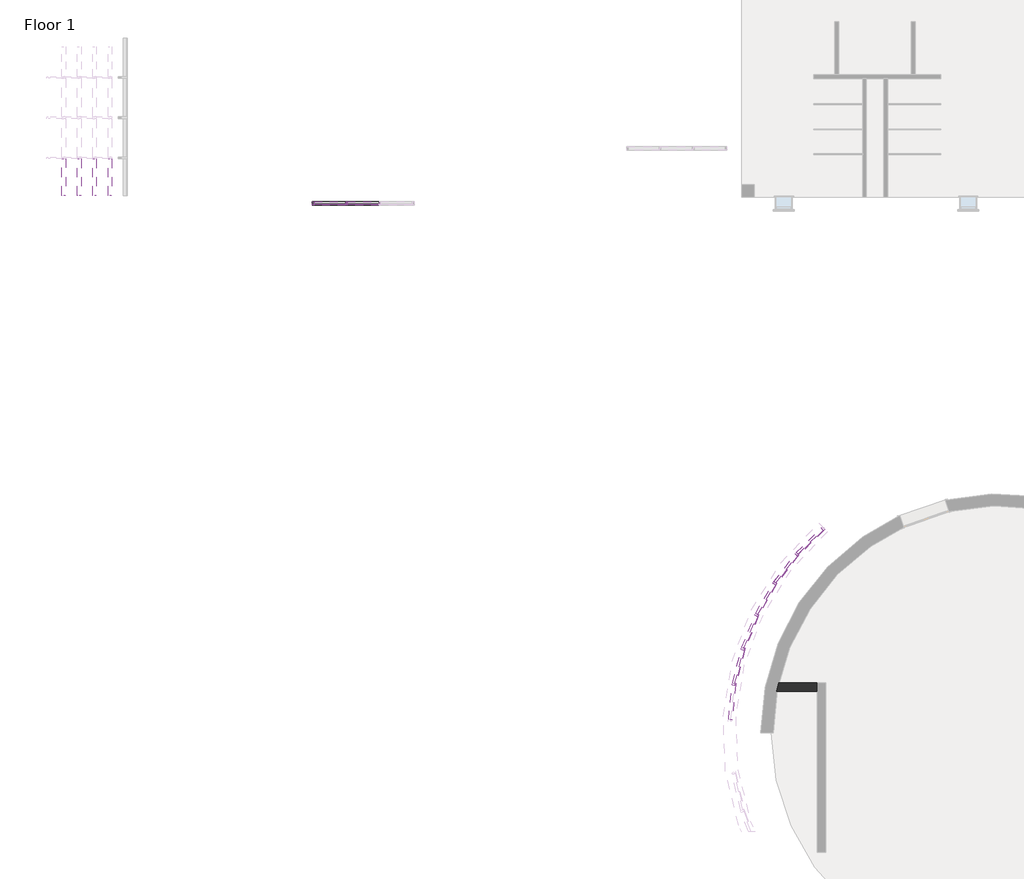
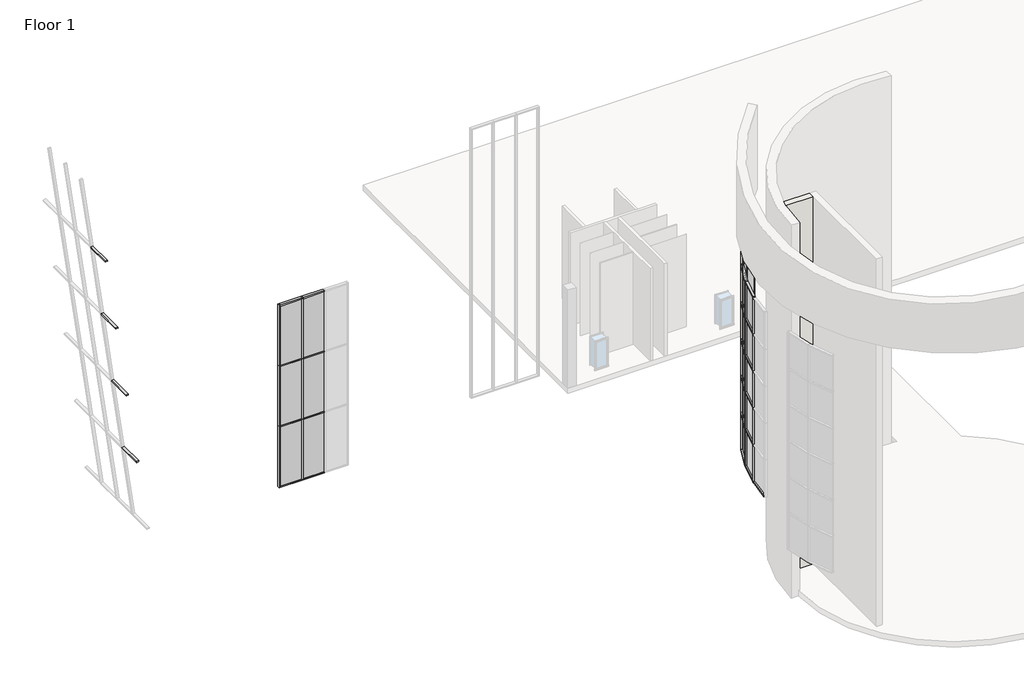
# One storey, part 2 of 11: 79 members, 28 plates, 1 wall.
"""IFC4 building model written with IfcOpenShell, lengths in millimetres."""

from ifc_helpers import new_model, si_unit, point, frame_2d, origin, origin_with_axes, place, context, project, spatial, polyline, circle_curve, trimmed, segment, composite_curve, outline, extrude, transform, mapped, element, save
from components import member_2ae322fc, member_fbb04c12, member_60f38ea1, member_92e61aeb, member_9c235780, member_a50b3385, member_6457a162, member_a397286f, member_08becc7e, member_c609194f, member_b037884b, member_01a4c065, member_349911e8, member_7b18d258, member_74dafc5e, member_9434a11c, system_panel_glazed_5cc509e3, system_panel_glazed_63f175b4, system_panel_glazed_b92d501e

model = new_model("IFC4")

# Units and contexts
model_context = context("Model", 3, world=origin())
ifc_project = project(units=[si_unit("LENGTHUNIT", "METRE", prefix="MILLI")], contexts=[model_context])

# Site, building, storey
site = spatial("IfcSite", under=ifc_project)
building = spatial("IfcBuilding", under=site)
storey = spatial("IfcBuildingStorey", under=building, Name="Floor 1", Elevation=0.0)

# Members
placement = place(None, origin())
member_shape = member_2ae322fc(model_context)
element("IfcMember", 1, ObjectType="Rectangular Mullion1 : 2.5\" x 5\" rectangular", at=placement, inside=storey, context=model_context, shape_type="MappedRepresentation", body=[
    mapped(member_shape, transform((-58.879377, 26659.808796, 5486.4), x_axis=(0.0, 0.0, -1.0), y_axis=(-0.7036879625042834, 0.7105091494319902, 0.0), z_axis=(0.7105091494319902, 0.7036879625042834, 0.0))),
])
member_2_shape = member_fbb04c12(model_context)
element("IfcMember", 2, ObjectType="Rectangular Mullion1 : 2.5\" x 5\" rectangular", at=placement, inside=storey, context=model_context, shape_type="MappedRepresentation", body=[
    mapped(member_2_shape, transform((-946.4907238, 25780.7188917, 15849.6), x_axis=(0.0, 0.0, 1.0), y_axis=(-0.7036879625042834, 0.7105091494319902, 0.0), z_axis=(-0.7105091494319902, -0.7036879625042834, 0.0))),
])
member_3_shape = member_60f38ea1(model_context)
element("IfcMember", 3, ObjectType="Rectangular Mullion1 : 2.5\" x 5\" rectangular", at=placement, inside=storey, context=model_context, shape_type="MappedRepresentation", body=[
    mapped(member_3_shape, transform((-1747.7971728, 24741.2529315, 15849.6), x_axis=(0.0, 0.0, 1.0), y_axis=(-0.7940009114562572, 0.607916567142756, 0.0), z_axis=(-0.6079165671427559, -0.7940009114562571, 0.0))),
])
element("IfcMember", 4, ObjectType="Rectangular Mullion1 : 2.5\" x 5\" rectangular", at=placement, inside=storey, context=model_context, shape_type="MappedRepresentation", body=[
    mapped(member_3_shape, transform((-2401.6981744, 23603.2665357, 15849.6), x_axis=(0.0, 0.0, 1.0), y_axis=(-0.8686708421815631, 0.49538971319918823, 0.0), z_axis=(-0.4953897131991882, -0.868670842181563, 0.0))),
])
element("IfcMember", 5, ObjectType="Rectangular Mullion1 : 2.5\" x 5\" rectangular", at=placement, inside=storey, context=model_context, shape_type="MappedRepresentation", body=[
    mapped(member_3_shape, transform((-2896.304556, 22387.5510738, 15849.6), x_axis=(0.0, 0.0, 1.0), y_axis=(-0.9274980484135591, 0.37382799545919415, 0.0), z_axis=(-0.3738279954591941, -0.927498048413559, 0.0))),
])
element("IfcMember", 6, ObjectType="Rectangular Mullion1 : 2.5\" x 5\" rectangular", at=placement, inside=storey, context=model_context, shape_type="MappedRepresentation", body=[
    mapped(member_3_shape, transform((-3222.5957401, 21116.2786325, 15849.6), x_axis=(0.0, 0.0, 1.0), y_axis=(-0.9694096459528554, 0.24544844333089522, 0.0), z_axis=(-0.2454484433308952, -0.9694096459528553, 0.0))),
])
element("IfcMember", 7, ObjectType="Rectangular Mullion1 : 2.5\" x 5\" rectangular", at=placement, inside=storey, context=model_context, shape_type="MappedRepresentation", body=[
    mapped(member_3_shape, transform((-988.3507403, 25733.16727, 5486.4), x_axis=(0.0, 0.0, -1.0), y_axis=(-0.7940009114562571, 0.6079165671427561, 0.0), z_axis=(0.6079165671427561, 0.7940009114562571, 0.0))),
])
element("IfcMember", 8, ObjectType="Rectangular Mullion1 : 2.5\" x 5\" rectangular", at=placement, inside=storey, context=model_context, shape_type="MappedRepresentation", body=[
    mapped(member_3_shape, transform((-1782.8271472, 24688.4631033, 5486.4), x_axis=(0.0, 0.0, -1.0), y_axis=(-0.8686708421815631, 0.4953897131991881, 0.0), z_axis=(0.4953897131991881, 0.8686708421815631, 0.0))),
])
element("IfcMember", 9, ObjectType="Rectangular Mullion1 : 2.5\" x 5\" rectangular", at=placement, inside=storey, context=model_context, shape_type="MappedRepresentation", body=[
    mapped(member_3_shape, transform((-2429.2958366, 23546.2381734, 5486.4), x_axis=(0.0, 0.0, -1.0), y_axis=(-0.9274980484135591, 0.37382799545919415, 0.0), z_axis=(0.37382799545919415, 0.9274980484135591, 0.0))),
])
element("IfcMember", 10, ObjectType="Rectangular Mullion1 : 2.5\" x 5\" rectangular", at=placement, inside=storey, context=model_context, shape_type="MappedRepresentation", body=[
    mapped(member_3_shape, transform((-2915.9665829, 22327.3242545, 5486.4), x_axis=(0.0, 0.0, -1.0), y_axis=(-0.9694096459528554, 0.24544844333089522, 0.0), z_axis=(0.2454484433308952, 0.9694096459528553, 0.0))),
])
member_4_shape = member_92e61aeb(model_context)
element("IfcMember", 11, ObjectType="Rectangular Mullion1 : 2.5\" x 5\" rectangular", at=placement, inside=storey, context=model_context, shape_type="MappedRepresentation", body=[
    mapped(member_4_shape, transform((-946.4907238, 25780.7188917, 7578.09), x_axis=(0.0, 0.0, 1.0), y_axis=(-0.7036879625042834, 0.7105091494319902, 0.0), z_axis=(-0.7105091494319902, -0.7036879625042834, 0.0))),
])
member_5_shape = member_9c235780(model_context)
element("IfcMember", 12, ObjectType="Rectangular Mullion1 : 2.5\" x 5\" rectangular", at=placement, inside=storey, context=model_context, shape_type="MappedRepresentation", body=[
    mapped(member_5_shape, transform((-1747.7971728, 24741.2529315, 7578.09), x_axis=(0.0, 0.0, 1.0), y_axis=(-0.7940009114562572, 0.607916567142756, 0.0), z_axis=(-0.607916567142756, -0.7940009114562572, 0.0))),
])
element("IfcMember", 13, ObjectType="Rectangular Mullion1 : 2.5\" x 5\" rectangular", at=placement, inside=storey, context=model_context, shape_type="MappedRepresentation", body=[
    mapped(member_5_shape, transform((-2401.6981744, 23603.2665357, 7578.09), x_axis=(0.0, 0.0, 1.0), y_axis=(-0.8686708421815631, 0.4953897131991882, 0.0), z_axis=(-0.4953897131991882, -0.8686708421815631, 0.0))),
])
element("IfcMember", 14, ObjectType="Rectangular Mullion1 : 2.5\" x 5\" rectangular", at=placement, inside=storey, context=model_context, shape_type="MappedRepresentation", body=[
    mapped(member_5_shape, transform((-2896.304556, 22387.5510738, 7578.09), x_axis=(0.0, 0.0, 1.0), y_axis=(-0.9274980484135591, 0.37382799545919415, 0.0), z_axis=(-0.37382799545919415, -0.9274980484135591, 0.0))),
])
element("IfcMember", 15, ObjectType="Rectangular Mullion1 : 2.5\" x 5\" rectangular", at=placement, inside=storey, context=model_context, shape_type="MappedRepresentation", body=[
    mapped(member_5_shape, transform((-3222.5957401, 21116.2786325, 7578.09), x_axis=(0.0, 0.0, 1.0), y_axis=(-0.9694096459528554, 0.24544844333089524, 0.0), z_axis=(-0.24544844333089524, -0.9694096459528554, 0.0))),
])
element("IfcMember", 16, ObjectType="Rectangular Mullion1 : 2.5\" x 5\" rectangular", at=placement, inside=storey, context=model_context, shape_type="MappedRepresentation", body=[
    mapped(member_4_shape, transform((-946.4907238, 25780.7188917, 9638.03), x_axis=(0.0, 0.0, 1.0), y_axis=(-0.7036879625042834, 0.7105091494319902, 0.0), z_axis=(-0.7105091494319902, -0.7036879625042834, 0.0))),
])
element("IfcMember", 17, ObjectType="Rectangular Mullion1 : 2.5\" x 5\" rectangular", at=placement, inside=storey, context=model_context, shape_type="MappedRepresentation", body=[
    mapped(member_4_shape, transform((-946.4907238, 25780.7188917, 11697.97), x_axis=(0.0, 0.0, 1.0), y_axis=(-0.7036879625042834, 0.7105091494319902, 0.0), z_axis=(-0.7105091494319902, -0.7036879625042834, 0.0))),
])
element("IfcMember", 18, ObjectType="Rectangular Mullion1 : 2.5\" x 5\" rectangular", at=placement, inside=storey, context=model_context, shape_type="MappedRepresentation", body=[
    mapped(member_5_shape, transform((-1747.7971728, 24741.2529315, 9638.03), x_axis=(0.0, 0.0, 1.0), y_axis=(-0.7940009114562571, 0.6079165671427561, 0.0), z_axis=(-0.6079165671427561, -0.7940009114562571, 0.0))),
])
element("IfcMember", 19, ObjectType="Rectangular Mullion1 : 2.5\" x 5\" rectangular", at=placement, inside=storey, context=model_context, shape_type="MappedRepresentation", body=[
    mapped(member_5_shape, transform((-2401.6981744, 23603.2665357, 9638.03), x_axis=(0.0, 0.0, 1.0), y_axis=(-0.8686708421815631, 0.4953897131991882, 0.0), z_axis=(-0.4953897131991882, -0.8686708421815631, 0.0))),
])
element("IfcMember", 20, ObjectType="Rectangular Mullion1 : 2.5\" x 5\" rectangular", at=placement, inside=storey, context=model_context, shape_type="MappedRepresentation", body=[
    mapped(member_5_shape, transform((-2896.304556, 22387.5510738, 9638.03), x_axis=(0.0, 0.0, 1.0), y_axis=(-0.9274980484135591, 0.3738279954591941, 0.0), z_axis=(-0.3738279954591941, -0.9274980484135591, 0.0))),
])
element("IfcMember", 21, ObjectType="Rectangular Mullion1 : 2.5\" x 5\" rectangular", at=placement, inside=storey, context=model_context, shape_type="MappedRepresentation", body=[
    mapped(member_5_shape, transform((-3222.5957401, 21116.2786325, 9638.03), x_axis=(0.0, 0.0, 1.0), y_axis=(-0.9694096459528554, 0.24544844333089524, 0.0), z_axis=(-0.24544844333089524, -0.9694096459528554, 0.0))),
])
element("IfcMember", 22, ObjectType="Rectangular Mullion1 : 2.5\" x 5\" rectangular", at=placement, inside=storey, context=model_context, shape_type="MappedRepresentation", body=[
    mapped(member_5_shape, transform((-1747.7971728, 24741.2529315, 11697.97), x_axis=(0.0, 0.0, 1.0), y_axis=(-0.7940009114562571, 0.6079165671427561, 0.0), z_axis=(-0.6079165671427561, -0.7940009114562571, 0.0))),
])
element("IfcMember", 23, ObjectType="Rectangular Mullion1 : 2.5\" x 5\" rectangular", at=placement, inside=storey, context=model_context, shape_type="MappedRepresentation", body=[
    mapped(member_5_shape, transform((-2401.6981744, 23603.2665357, 11697.97), x_axis=(0.0, 0.0, 1.0), y_axis=(-0.8686708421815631, 0.4953897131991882, 0.0), z_axis=(-0.4953897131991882, -0.8686708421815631, 0.0))),
])
element("IfcMember", 24, ObjectType="Rectangular Mullion1 : 2.5\" x 5\" rectangular", at=placement, inside=storey, context=model_context, shape_type="MappedRepresentation", body=[
    mapped(member_5_shape, transform((-2896.304556, 22387.5510738, 11697.97), x_axis=(0.0, 0.0, 1.0), y_axis=(-0.9274980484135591, 0.3738279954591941, 0.0), z_axis=(-0.3738279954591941, -0.9274980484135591, 0.0))),
])
element("IfcMember", 25, ObjectType="Rectangular Mullion1 : 2.5\" x 5\" rectangular", at=placement, inside=storey, context=model_context, shape_type="MappedRepresentation", body=[
    mapped(member_5_shape, transform((-3222.5957401, 21116.2786325, 11697.97), x_axis=(0.0, 0.0, 1.0), y_axis=(-0.9694096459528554, 0.24544844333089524, 0.0), z_axis=(-0.24544844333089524, -0.9694096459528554, 0.0))),
])
element("IfcMember", 26, ObjectType="Rectangular Mullion1 : 2.5\" x 5\" rectangular", at=placement, inside=storey, context=model_context, shape_type="MappedRepresentation", body=[
    mapped(member_4_shape, transform((-946.4907238, 25780.7188917, 13757.91), x_axis=(0.0, 0.0, 1.0), y_axis=(-0.7036879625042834, 0.7105091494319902, 0.0), z_axis=(-0.7105091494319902, -0.7036879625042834, 0.0))),
])
element("IfcMember", 27, ObjectType="Rectangular Mullion1 : 2.5\" x 5\" rectangular", at=placement, inside=storey, context=model_context, shape_type="MappedRepresentation", body=[
    mapped(member_5_shape, transform((-1747.7971728, 24741.2529315, 13757.91), x_axis=(0.0, 0.0, 1.0), y_axis=(-0.7940009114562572, 0.607916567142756, 0.0), z_axis=(-0.607916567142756, -0.7940009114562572, 0.0))),
])
element("IfcMember", 28, ObjectType="Rectangular Mullion1 : 2.5\" x 5\" rectangular", at=placement, inside=storey, context=model_context, shape_type="MappedRepresentation", body=[
    mapped(member_5_shape, transform((-2401.6981744, 23603.2665357, 13757.91), x_axis=(0.0, 0.0, 1.0), y_axis=(-0.8686708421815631, 0.4953897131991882, 0.0), z_axis=(-0.4953897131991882, -0.8686708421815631, 0.0))),
])
element("IfcMember", 29, ObjectType="Rectangular Mullion1 : 2.5\" x 5\" rectangular", at=placement, inside=storey, context=model_context, shape_type="MappedRepresentation", body=[
    mapped(member_5_shape, transform((-2896.304556, 22387.5510738, 13757.91), x_axis=(0.0, 0.0, 1.0), y_axis=(-0.9274980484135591, 0.3738279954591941, 0.0), z_axis=(-0.3738279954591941, -0.9274980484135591, 0.0))),
])
element("IfcMember", 30, ObjectType="Rectangular Mullion1 : 2.5\" x 5\" rectangular", at=placement, inside=storey, context=model_context, shape_type="MappedRepresentation", body=[
    mapped(member_5_shape, transform((-3222.5957401, 21116.2786325, 13757.91), x_axis=(0.0, 0.0, 1.0), y_axis=(-0.9694096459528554, 0.24544844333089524, 0.0), z_axis=(-0.24544844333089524, -0.9694096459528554, 0.0))),
])
member_6_shape = member_a50b3385(model_context)
element("IfcMember", 31, ObjectType="Rectangular Mullion1 : 2.5\" x 5\" rectangular", at=placement, inside=storey, context=model_context, shape_type="MappedRepresentation", body=[
    mapped(member_6_shape, transform((-969.0493893, 25758.3767989, 5486.4), x_axis=(-0.6601431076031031, -0.7511398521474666, 0.0), y_axis=(-0.7511398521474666, 0.6601431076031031, 0.0), z_axis=(0.0, 0.0, -1.0))),
])
element("IfcMember", 32, ObjectType="Rectangular Mullion1 : 2.5\" x 5\" rectangular", at=placement, inside=storey, context=model_context, shape_type="MappedRepresentation", body=[
    mapped(member_6_shape, transform((-1767.0985238, 24716.0434025, 5486.4), x_axis=(-0.5529150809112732, -0.8332376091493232, 0.0), y_axis=(-0.8332376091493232, 0.5529150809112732, 0.0), z_axis=(0.0, 0.0, -1.0))),
])
element("IfcMember", 33, ObjectType="Rectangular Mullion1 : 2.5\" x 5\" rectangular", at=placement, inside=storey, context=model_context, shape_type="MappedRepresentation", body=[
    mapped(member_6_shape, transform((-2417.4267977, 23575.6862364, 5486.4), x_axis=(-0.43560304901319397, -0.9001388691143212, 0.0), y_axis=(-0.9001388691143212, 0.43560304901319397, 0.0), z_axis=(0.0, 0.0, -1.0))),
])
element("IfcMember", 34, ObjectType="Rectangular Mullion1 : 2.5\" x 5\" rectangular", at=placement, inside=storey, context=model_context, shape_type="MappedRepresentation", body=[
    mapped(member_6_shape, transform((-2908.1735948, 22358.1030108, 5486.4), x_axis=(-0.3103465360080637, -0.9506234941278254, 0.0), y_axis=(-0.9506234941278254, 0.3103465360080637, 0.0), z_axis=(0.0, 0.0, -1.0))),
])
element("IfcMember", 35, ObjectType="Rectangular Mullion1 : 2.5\" x 5\" rectangular", at=placement, inside=storey, context=model_context, shape_type="MappedRepresentation", body=[
    mapped(member_6_shape, transform((-3230.3887282, 21085.4998763, 5486.4), x_axis=(-0.17942995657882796, -0.9837707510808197, 0.0), y_axis=(-0.9837707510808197, 0.17942995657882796, 0.0), z_axis=(0.0, 0.0, -1.0))),
])
member_7_shape = member_6457a162(model_context)
element("IfcMember", 36, ObjectType="Rectangular Mullion1 : 2.5\" x 5\" rectangular", at=placement, inside=storey, context=model_context, shape_type="MappedRepresentation", body=[
    mapped(member_7_shape, transform((-969.0493893, 25758.3767989, 7578.09), x_axis=(-0.6601431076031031, -0.7511398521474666, 0.0), y_axis=(-0.7511398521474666, 0.6601431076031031, 0.0), z_axis=(0.0, 0.0, -1.0))),
])
element("IfcMember", 37, ObjectType="Rectangular Mullion1 : 2.5\" x 5\" rectangular", at=placement, inside=storey, context=model_context, shape_type="MappedRepresentation", body=[
    mapped(member_7_shape, transform((-1767.0985238, 24716.0434025, 7578.09), x_axis=(-0.5529150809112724, -0.8332376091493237, 0.0), y_axis=(-0.8332376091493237, 0.5529150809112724, 0.0), z_axis=(0.0, 0.0, -1.0))),
])
element("IfcMember", 38, ObjectType="Rectangular Mullion1 : 2.5\" x 5\" rectangular", at=placement, inside=storey, context=model_context, shape_type="MappedRepresentation", body=[
    mapped(member_7_shape, transform((-2417.4267977, 23575.6862364, 7578.09), x_axis=(-0.43560304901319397, -0.9001388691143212, 0.0), y_axis=(-0.9001388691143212, 0.43560304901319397, 0.0), z_axis=(0.0, 0.0, -1.0))),
])
element("IfcMember", 39, ObjectType="Rectangular Mullion1 : 2.5\" x 5\" rectangular", at=placement, inside=storey, context=model_context, shape_type="MappedRepresentation", body=[
    mapped(member_7_shape, transform((-2908.1735948, 22358.1030108, 7578.09), x_axis=(-0.31034653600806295, -0.9506234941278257, 0.0), y_axis=(-0.9506234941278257, 0.31034653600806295, 0.0), z_axis=(0.0, 0.0, -1.0))),
])
element("IfcMember", 40, ObjectType="Rectangular Mullion1 : 2.5\" x 5\" rectangular", at=placement, inside=storey, context=model_context, shape_type="MappedRepresentation", body=[
    mapped(member_7_shape, transform((-969.0493893, 25758.3767989, 9638.03), x_axis=(-0.6601431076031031, -0.7511398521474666, 0.0), y_axis=(-0.7511398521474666, 0.6601431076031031, 0.0), z_axis=(0.0, 0.0, -1.0))),
])
element("IfcMember", 41, ObjectType="Rectangular Mullion1 : 2.5\" x 5\" rectangular", at=placement, inside=storey, context=model_context, shape_type="MappedRepresentation", body=[
    mapped(member_7_shape, transform((-1767.0985238, 24716.0434025, 9638.03), x_axis=(-0.5529150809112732, -0.8332376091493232, 0.0), y_axis=(-0.8332376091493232, 0.5529150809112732, 0.0), z_axis=(0.0, 0.0, -1.0))),
])
element("IfcMember", 42, ObjectType="Rectangular Mullion1 : 2.5\" x 5\" rectangular", at=placement, inside=storey, context=model_context, shape_type="MappedRepresentation", body=[
    mapped(member_7_shape, transform((-2417.4267977, 23575.6862364, 9638.03), x_axis=(-0.4356030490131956, -0.9001388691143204, 0.0), y_axis=(-0.9001388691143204, 0.4356030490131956, 0.0), z_axis=(0.0, 0.0, -1.0))),
])
element("IfcMember", 43, ObjectType="Rectangular Mullion1 : 2.5\" x 5\" rectangular", at=placement, inside=storey, context=model_context, shape_type="MappedRepresentation", body=[
    mapped(member_7_shape, transform((-2908.1735948, 22358.1030108, 9638.03), x_axis=(-0.31034653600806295, -0.9506234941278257, 0.0), y_axis=(-0.9506234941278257, 0.31034653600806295, 0.0), z_axis=(0.0, 0.0, -1.0))),
])
element("IfcMember", 44, ObjectType="Rectangular Mullion1 : 2.5\" x 5\" rectangular", at=placement, inside=storey, context=model_context, shape_type="MappedRepresentation", body=[
    mapped(member_7_shape, transform((-969.0493893, 25758.3767989, 11697.97), x_axis=(-0.6601431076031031, -0.7511398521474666, 0.0), y_axis=(-0.7511398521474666, 0.6601431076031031, 0.0), z_axis=(0.0, 0.0, -1.0))),
])
element("IfcMember", 45, ObjectType="Rectangular Mullion1 : 2.5\" x 5\" rectangular", at=placement, inside=storey, context=model_context, shape_type="MappedRepresentation", body=[
    mapped(member_7_shape, transform((-1767.0985238, 24716.0434025, 11697.97), x_axis=(-0.5529150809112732, -0.8332376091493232, 0.0), y_axis=(-0.8332376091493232, 0.5529150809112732, 0.0), z_axis=(0.0, 0.0, -1.0))),
])
element("IfcMember", 46, ObjectType="Rectangular Mullion1 : 2.5\" x 5\" rectangular", at=placement, inside=storey, context=model_context, shape_type="MappedRepresentation", body=[
    mapped(member_7_shape, transform((-2417.4267977, 23575.6862364, 11697.97), x_axis=(-0.4356030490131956, -0.9001388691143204, 0.0), y_axis=(-0.9001388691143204, 0.4356030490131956, 0.0), z_axis=(0.0, 0.0, -1.0))),
])
element("IfcMember", 47, ObjectType="Rectangular Mullion1 : 2.5\" x 5\" rectangular", at=placement, inside=storey, context=model_context, shape_type="MappedRepresentation", body=[
    mapped(member_7_shape, transform((-2908.1735948, 22358.1030108, 11697.97), x_axis=(-0.31034653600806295, -0.9506234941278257, 0.0), y_axis=(-0.9506234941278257, 0.31034653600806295, 0.0), z_axis=(0.0, 0.0, -1.0))),
])
element("IfcMember", 48, ObjectType="Rectangular Mullion1 : 2.5\" x 5\" rectangular", at=placement, inside=storey, context=model_context, shape_type="MappedRepresentation", body=[
    mapped(member_7_shape, transform((-3230.3887282, 21085.4998763, 7578.09), x_axis=(-0.17942995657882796, -0.9837707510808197, 0.0), y_axis=(-0.9837707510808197, 0.17942995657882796, 0.0), z_axis=(0.0, 0.0, -1.0))),
])
element("IfcMember", 49, ObjectType="Rectangular Mullion1 : 2.5\" x 5\" rectangular", at=placement, inside=storey, context=model_context, shape_type="MappedRepresentation", body=[
    mapped(member_7_shape, transform((-3230.3887282, 21085.4998763, 9638.03), x_axis=(-0.1794299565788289, -0.9837707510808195, 0.0), y_axis=(-0.9837707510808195, 0.1794299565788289, 0.0), z_axis=(0.0, 0.0, -1.0))),
])
element("IfcMember", 50, ObjectType="Rectangular Mullion1 : 2.5\" x 5\" rectangular", at=placement, inside=storey, context=model_context, shape_type="MappedRepresentation", body=[
    mapped(member_7_shape, transform((-3230.3887282, 21085.4998763, 11697.97), x_axis=(-0.1794299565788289, -0.9837707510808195, 0.0), y_axis=(-0.9837707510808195, 0.1794299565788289, 0.0), z_axis=(0.0, 0.0, -1.0))),
])
element("IfcMember", 51, ObjectType="Rectangular Mullion1 : 2.5\" x 5\" rectangular", at=placement, inside=storey, context=model_context, shape_type="MappedRepresentation", body=[
    mapped(member_6_shape, transform((-969.0493893, 25758.3767989, 13757.91), x_axis=(-0.6601431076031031, -0.7511398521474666, 0.0), y_axis=(-0.7511398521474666, 0.6601431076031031, 0.0), z_axis=(0.0, 0.0, -1.0))),
])
element("IfcMember", 52, ObjectType="Rectangular Mullion1 : 2.5\" x 5\" rectangular", at=placement, inside=storey, context=model_context, shape_type="MappedRepresentation", body=[
    mapped(member_6_shape, transform((-1767.0985238, 24716.0434025, 13757.91), x_axis=(-0.5529150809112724, -0.8332376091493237, 0.0), y_axis=(-0.8332376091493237, 0.5529150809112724, 0.0), z_axis=(0.0, 0.0, -1.0))),
])
element("IfcMember", 53, ObjectType="Rectangular Mullion1 : 2.5\" x 5\" rectangular", at=placement, inside=storey, context=model_context, shape_type="MappedRepresentation", body=[
    mapped(member_6_shape, transform((-2417.4267977, 23575.6862364, 13757.91), x_axis=(-0.4356030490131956, -0.9001388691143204, 0.0), y_axis=(-0.9001388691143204, 0.4356030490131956, 0.0), z_axis=(0.0, 0.0, -1.0))),
])
element("IfcMember", 54, ObjectType="Rectangular Mullion1 : 2.5\" x 5\" rectangular", at=placement, inside=storey, context=model_context, shape_type="MappedRepresentation", body=[
    mapped(member_6_shape, transform((-2908.1735948, 22358.1030108, 13757.91), x_axis=(-0.31034653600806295, -0.9506234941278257, 0.0), y_axis=(-0.9506234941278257, 0.31034653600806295, 0.0), z_axis=(0.0, 0.0, -1.0))),
])
element("IfcMember", 55, ObjectType="Rectangular Mullion1 : 2.5\" x 5\" rectangular", at=placement, inside=storey, context=model_context, shape_type="MappedRepresentation", body=[
    mapped(member_6_shape, transform((-3230.3887282, 21085.4998763, 13757.91), x_axis=(-0.1794299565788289, -0.9837707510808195, 0.0), y_axis=(-0.9837707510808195, 0.1794299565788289, 0.0), z_axis=(0.0, 0.0, -1.0))),
])
element("IfcMember", 56, ObjectType="Rectangular Mullion1 : 2.5\" x 5\" rectangular", at=placement, inside=storey, context=model_context, shape_type="MappedRepresentation", body=[
    mapped(member_2_shape, transform((-3233.9118907, 21053.9459569, 5486.4), x_axis=(0.0, 0.0, -1.0), y_axis=(-0.9938242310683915, 0.11096575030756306, 0.0), z_axis=(0.11096575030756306, 0.9938242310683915, 0.0))),
])
member_8_shape = member_a397286f(model_context)
element("IfcMember", 57, ObjectType="Rectangular Mullion1 : 2.5\" x 5\" rectangular", at=placement, inside=storey, context=model_context, shape_type="MappedRepresentation", body=[
    mapped(member_8_shape, transform((-13.762046, 26704.4929816, 15849.6), x_axis=(0.7105091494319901, 0.7036879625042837, 0.0), y_axis=(-0.7036879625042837, 0.7105091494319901, 0.0), z_axis=(0.0, 0.0, 1.0))),
])
element("IfcMember", 58, ObjectType="Rectangular Mullion1 : 2.5\" x 5\" rectangular", at=placement, inside=storey, context=model_context, shape_type="MappedRepresentation", body=[
    mapped(member_8_shape, transform((-13.762046, 26704.4929816, 7578.09), x_axis=(0.7105091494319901, 0.7036879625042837, 0.0), y_axis=(-0.7036879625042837, 0.7105091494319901, 0.0), z_axis=(0.0, 0.0, 1.0))),
])
member_9_shape = member_08becc7e(model_context)
element("IfcMember", 59, ObjectType="Rectangular Mullion1 : 2.5\" x 5\" rectangular", at=placement, inside=storey, context=model_context, shape_type="MappedRepresentation", body=[
    mapped(member_9_shape, transform((-13.762046, 26704.4929816, 9638.03), x_axis=(0.7105091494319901, 0.7036879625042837, 0.0), y_axis=(-0.7036879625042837, 0.7105091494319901, 0.0), z_axis=(0.0, 0.0, 1.0))),
])
element("IfcMember", 60, ObjectType="Rectangular Mullion1 : 2.5\" x 5\" rectangular", at=placement, inside=storey, context=model_context, shape_type="MappedRepresentation", body=[
    mapped(member_9_shape, transform((-13.762046, 26704.4929816, 11697.97), x_axis=(0.7105091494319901, 0.7036879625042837, 0.0), y_axis=(-0.7036879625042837, 0.7105091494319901, 0.0), z_axis=(0.0, 0.0, 1.0))),
])
element("IfcMember", 61, ObjectType="Rectangular Mullion1 : 2.5\" x 5\" rectangular", at=placement, inside=storey, context=model_context, shape_type="MappedRepresentation", body=[
    mapped(member_9_shape, transform((-13.762046, 26704.4929816, 13757.91), x_axis=(0.7105091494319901, 0.7036879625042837, 0.0), y_axis=(-0.7036879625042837, 0.7105091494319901, 0.0), z_axis=(0.0, 0.0, 1.0))),
])
member_10_shape = member_c609194f(model_context)
element("IfcMember", 62, ObjectType="Rectangular Mullion1 : 2.5\" x 5\" rectangular", at=placement, inside=storey, context=model_context, shape_type="MappedRepresentation", body=[
    mapped(member_10_shape, transform((-25693.3790742, 38681.824389, 3810.4039622), x_axis=(-0.13917310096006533, 0.0, 0.9902680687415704), y_axis=(-0.9902680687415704, 0.0, -0.13917310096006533), z_axis=(0.0, -1.0, 0.0))),
])
element("IfcMember", 63, ObjectType="Rectangular Mullion1 : 2.5\" x 5\" rectangular", at=placement, inside=storey, context=model_context, shape_type="MappedRepresentation", body=[
    mapped(member_10_shape, transform((-26246.1445106, 38681.824389, 7743.5344115), x_axis=(-0.13917310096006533, 0.0, 0.9902680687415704), y_axis=(-0.9902680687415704, 0.0, -0.13917310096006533), z_axis=(0.0, -1.0, 0.0))),
])
element("IfcMember", 64, ObjectType="Rectangular Mullion1 : 2.5\" x 5\" rectangular", at=placement, inside=storey, context=model_context, shape_type="MappedRepresentation", body=[
    mapped(member_10_shape, transform((-26798.9099469, 38681.824389, 11676.6648609), x_axis=(-0.13917310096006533, 0.0, 0.9902680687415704), y_axis=(-0.9902680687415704, 0.0, -0.13917310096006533), z_axis=(0.0, -1.0, 0.0))),
])
element("IfcMember", 65, ObjectType="Rectangular Mullion1 : 2.5\" x 5\" rectangular", at=placement, inside=storey, context=model_context, shape_type="MappedRepresentation", body=[
    mapped(member_10_shape, transform((-27351.6753833, 38681.824389, 15609.7953102), x_axis=(-0.13917310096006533, 0.0, 0.9902680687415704), y_axis=(-0.9902680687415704, 0.0, -0.13917310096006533), z_axis=(0.0, -1.0, 0.0))),
])
member_11_shape = member_b037884b(model_context)
element("IfcMember", 66, ObjectType="Rectangular Mullion1 : 2.5\" x 5\" rectangular", at=placement, inside=storey, context=model_context, shape_type="MappedRepresentation", body=[
    mapped(member_11_shape, transform((-18341.9432976, 38391.311889, 10210.8), x_axis=(0.0, 0.0, 1.0), y_axis=(0.0, 1.0, 0.0), z_axis=(-1.0, 0.0, 0.0))),
])
element("IfcMember", 67, ObjectType="Rectangular Mullion1 : 2.5\" x 5\" rectangular", at=placement, inside=storey, context=model_context, shape_type="MappedRepresentation", body=[
    mapped(member_11_shape, transform((-17143.9099642, 38391.311889, 10210.8), x_axis=(0.0, 0.0, 1.0), y_axis=(0.0, 1.0, 0.0), z_axis=(-1.0, 0.0, 0.0))),
])
element("IfcMember", 68, ObjectType="Rectangular Mullion1 : 2.5\" x 5\" rectangular", at=placement, inside=storey, context=model_context, shape_type="MappedRepresentation", body=[
    mapped(member_11_shape, transform((-16009.3766311, 38391.311889, 0.0), x_axis=(0.0, 0.0, -1.0), y_axis=(0.0, 1.0, 0.0), z_axis=(1.0, 0.0, 0.0))),
])
element("IfcMember", 69, ObjectType="Rectangular Mullion1 : 2.5\" x 5\" rectangular", at=placement, inside=storey, context=model_context, shape_type="MappedRepresentation", body=[
    mapped(member_11_shape, transform((-17207.4099642, 38391.311889, 0.0), x_axis=(0.0, 0.0, -1.0), y_axis=(0.0, 1.0, 0.0), z_axis=(1.0, 0.0, 0.0))),
])
member_12_shape = member_01a4c065(model_context)
element("IfcMember", 70, ObjectType="Rectangular Mullion1 : 2.5\" x 5\" rectangular", at=placement, inside=storey, context=model_context, shape_type="MappedRepresentation", body=[
    mapped(member_12_shape, transform((-17143.9099642, 38391.311889, 3414.1833333), x_axis=(0.0, 0.0, 1.0), y_axis=(0.0, 1.0, 0.0), z_axis=(-1.0, 0.0, 0.0))),
])
element("IfcMember", 71, ObjectType="Rectangular Mullion1 : 2.5\" x 5\" rectangular", at=placement, inside=storey, context=model_context, shape_type="MappedRepresentation", body=[
    mapped(member_12_shape, transform((-18341.9432976, 38391.311889, 3414.1833333), x_axis=(0.0, 0.0, 1.0), y_axis=(0.0, 1.0, 0.0), z_axis=(-1.0, 0.0, 0.0))),
])
element("IfcMember", 72, ObjectType="Rectangular Mullion1 : 2.5\" x 5\" rectangular", at=placement, inside=storey, context=model_context, shape_type="MappedRepresentation", body=[
    mapped(member_12_shape, transform((-17143.9099642, 38391.311889, 6796.6166667), x_axis=(0.0, 0.0, 1.0), y_axis=(0.0, 1.0, 0.0), z_axis=(-1.0, 0.0, 0.0))),
])
element("IfcMember", 73, ObjectType="Rectangular Mullion1 : 2.5\" x 5\" rectangular", at=placement, inside=storey, context=model_context, shape_type="MappedRepresentation", body=[
    mapped(member_12_shape, transform((-18341.9432976, 38391.311889, 6796.6166667), x_axis=(0.0, 0.0, 1.0), y_axis=(0.0, 1.0, 0.0), z_axis=(-1.0, 0.0, 0.0))),
])
member_13_shape = member_349911e8(model_context)
element("IfcMember", 74, ObjectType="Rectangular Mullion1 : 2.5\" x 5\" rectangular", at=placement, inside=storey, context=model_context, shape_type="MappedRepresentation", body=[
    mapped(member_13_shape, transform((-17175.6599642, 38391.311889, 0.0), x_axis=(-1.0, 0.0, 0.0), y_axis=(0.0, 1.0, 0.0), z_axis=(0.0, 0.0, -1.0))),
])
member_14_shape = member_7b18d258(model_context)
element("IfcMember", 75, ObjectType="Rectangular Mullion1 : 2.5\" x 5\" rectangular", at=placement, inside=storey, context=model_context, shape_type="MappedRepresentation", body=[
    mapped(member_14_shape, transform((-17175.6599642, 38391.311889, 3414.1833333), x_axis=(-1.0, 0.0, 0.0), y_axis=(0.0, 1.0, 0.0), z_axis=(0.0, 0.0, -1.0))),
])
element("IfcMember", 76, ObjectType="Rectangular Mullion1 : 2.5\" x 5\" rectangular", at=placement, inside=storey, context=model_context, shape_type="MappedRepresentation", body=[
    mapped(member_13_shape, transform((-17175.6599642, 38391.311889, 6796.6166667), x_axis=(-1.0, 0.0, 0.0), y_axis=(0.0, 1.0, 0.0), z_axis=(0.0, 0.0, -1.0))),
])
member_15_shape = member_74dafc5e(model_context)
element("IfcMember", 77, ObjectType="Rectangular Mullion1 : 2.5\" x 5\" rectangular", at=placement, inside=storey, context=model_context, shape_type="MappedRepresentation", body=[
    mapped(member_15_shape, transform((-18405.4432976, 38391.311889, 0.0), x_axis=(-1.0, 0.0, 0.0), y_axis=(0.0, 1.0, 0.0), z_axis=(0.0, 0.0, -1.0))),
])
member_16_shape = member_9434a11c(model_context)
element("IfcMember", 78, ObjectType="Rectangular Mullion1 : 2.5\" x 5\" rectangular", at=placement, inside=storey, context=model_context, shape_type="MappedRepresentation", body=[
    mapped(member_16_shape, transform((-18405.4432976, 38391.311889, 3414.1833333), x_axis=(-1.0, 0.0, 0.0), y_axis=(0.0, 1.0, 0.0), z_axis=(0.0, 0.0, -1.0))),
])
element("IfcMember", 79, ObjectType="Rectangular Mullion1 : 2.5\" x 5\" rectangular", at=placement, inside=storey, context=model_context, shape_type="MappedRepresentation", body=[
    mapped(member_15_shape, transform((-18405.4432976, 38391.311889, 6796.6166667), x_axis=(-1.0, 0.0, 0.0), y_axis=(0.0, 1.0, 0.0), z_axis=(0.0, 0.0, -1.0))),
])

# Plates
system_panel_glazed_shape = system_panel_glazed_5cc509e3(model_context)
element("IfcPlate", 80, ObjectType="System Panel : Glazed", at=placement, inside=storey, context=model_context, shape_type="MappedRepresentation", body=[
    mapped(system_panel_glazed_shape, transform((-502.6850504, 26220.2638439, 5549.9), x_axis=(-0.7105091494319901, -0.7036879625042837, 0.0), y_axis=(0.7036879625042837, -0.7105091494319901, 0.0), z_axis=(0.0, 0.0, 1.0))),
])
element("IfcPlate", 81, ObjectType="System Panel : Glazed", at=placement, inside=storey, context=model_context, shape_type="MappedRepresentation", body=[
    mapped(system_panel_glazed_shape, transform((-502.6850504, 26220.2638439, 7609.84), x_axis=(-0.7105091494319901, -0.7036879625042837, 0.0), y_axis=(0.7036879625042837, -0.7105091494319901, 0.0), z_axis=(0.0, 0.0, 1.0))),
])
element("IfcPlate", 82, ObjectType="System Panel : Glazed", at=placement, inside=storey, context=model_context, shape_type="MappedRepresentation", body=[
    mapped(system_panel_glazed_shape, transform((-502.6850504, 26220.2638439, 9669.78), x_axis=(-0.7105091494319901, -0.7036879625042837, 0.0), y_axis=(0.7036879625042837, -0.7105091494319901, 0.0), z_axis=(0.0, 0.0, 1.0))),
])
element("IfcPlate", 83, ObjectType="System Panel : Glazed", at=placement, inside=storey, context=model_context, shape_type="MappedRepresentation", body=[
    mapped(system_panel_glazed_shape, transform((-502.6850504, 26220.2638439, 11729.72), x_axis=(-0.7105091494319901, -0.7036879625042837, 0.0), y_axis=(0.7036879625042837, -0.7105091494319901, 0.0), z_axis=(0.0, 0.0, 1.0))),
])
element("IfcPlate", 84, ObjectType="System Panel : Glazed", at=placement, inside=storey, context=model_context, shape_type="MappedRepresentation", body=[
    mapped(system_panel_glazed_shape, transform((-502.6850504, 26220.2638439, 13789.66), x_axis=(-0.7105091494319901, -0.7036879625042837, 0.0), y_axis=(0.7036879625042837, -0.7105091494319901, 0.0), z_axis=(0.0, 0.0, 1.0))),
])
system_panel_glazed_2_shape = system_panel_glazed_63f175b4(model_context)
element("IfcPlate", 85, ObjectType="System Panel : Glazed", at=placement, inside=storey, context=model_context, shape_type="MappedRepresentation", body=[
    mapped(system_panel_glazed_2_shape, transform((-1368.0739565, 25237.2101007, 5549.9), x_axis=(-0.607916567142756, -0.7940009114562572, 0.0), y_axis=(0.7940009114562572, -0.607916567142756, 0.0), z_axis=(0.0, 0.0, 1.0))),
])
element("IfcPlate", 86, ObjectType="System Panel : Glazed", at=placement, inside=storey, context=model_context, shape_type="MappedRepresentation", body=[
    mapped(system_panel_glazed_2_shape, transform((-2092.2626608, 24145.8648195, 5549.9), x_axis=(-0.49538971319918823, -0.8686708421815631, 0.0), y_axis=(0.8686708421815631, -0.49538971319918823, 0.0), z_axis=(0.0, 0.0, 1.0))),
])
element("IfcPlate", 87, ObjectType="System Panel : Glazed", at=placement, inside=storey, context=model_context, shape_type="MappedRepresentation", body=[
    mapped(system_panel_glazed_2_shape, transform((-2662.8001963, 22966.8946236, 5549.9), x_axis=(-0.3738279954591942, -0.9274980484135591, 0.0), y_axis=(0.9274980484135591, -0.3738279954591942, 0.0), z_axis=(0.0, 0.0, 1.0))),
])
element("IfcPlate", 88, ObjectType="System Panel : Glazed", at=placement, inside=storey, context=model_context, shape_type="MappedRepresentation", body=[
    mapped(system_panel_glazed_2_shape, transform((-1368.0739565, 25237.2101007, 7609.84), x_axis=(-0.607916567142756, -0.7940009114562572, 0.0), y_axis=(0.7940009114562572, -0.607916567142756, 0.0), z_axis=(0.0, 0.0, 1.0))),
])
element("IfcPlate", 89, ObjectType="System Panel : Glazed", at=placement, inside=storey, context=model_context, shape_type="MappedRepresentation", body=[
    mapped(system_panel_glazed_2_shape, transform((-2092.2626608, 24145.8648195, 7609.84), x_axis=(-0.49538971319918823, -0.8686708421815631, 0.0), y_axis=(0.8686708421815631, -0.49538971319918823, 0.0), z_axis=(0.0, 0.0, 1.0))),
])
element("IfcPlate", 90, ObjectType="System Panel : Glazed", at=placement, inside=storey, context=model_context, shape_type="MappedRepresentation", body=[
    mapped(system_panel_glazed_2_shape, transform((-2662.8001963, 22966.8946236, 7609.84), x_axis=(-0.3738279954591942, -0.9274980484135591, 0.0), y_axis=(0.9274980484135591, -0.3738279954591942, 0.0), z_axis=(0.0, 0.0, 1.0))),
])
element("IfcPlate", 91, ObjectType="System Panel : Glazed", at=placement, inside=storey, context=model_context, shape_type="MappedRepresentation", body=[
    mapped(system_panel_glazed_2_shape, transform((-1368.0739565, 25237.2101007, 9669.78), x_axis=(-0.607916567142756, -0.7940009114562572, 0.0), y_axis=(0.7940009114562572, -0.607916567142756, 0.0), z_axis=(0.0, 0.0, 1.0))),
])
element("IfcPlate", 92, ObjectType="System Panel : Glazed", at=placement, inside=storey, context=model_context, shape_type="MappedRepresentation", body=[
    mapped(system_panel_glazed_2_shape, transform((-2092.2626608, 24145.8648195, 9669.78), x_axis=(-0.49538971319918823, -0.8686708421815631, 0.0), y_axis=(0.8686708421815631, -0.49538971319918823, 0.0), z_axis=(0.0, 0.0, 1.0))),
])
element("IfcPlate", 93, ObjectType="System Panel : Glazed", at=placement, inside=storey, context=model_context, shape_type="MappedRepresentation", body=[
    mapped(system_panel_glazed_2_shape, transform((-2662.8001963, 22966.8946236, 9669.78), x_axis=(-0.3738279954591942, -0.9274980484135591, 0.0), y_axis=(0.9274980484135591, -0.3738279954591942, 0.0), z_axis=(0.0, 0.0, 1.0))),
])
element("IfcPlate", 94, ObjectType="System Panel : Glazed", at=placement, inside=storey, context=model_context, shape_type="MappedRepresentation", body=[
    mapped(system_panel_glazed_2_shape, transform((-1368.0739565, 25237.2101007, 11729.72), x_axis=(-0.607916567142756, -0.7940009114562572, 0.0), y_axis=(0.7940009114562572, -0.607916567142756, 0.0), z_axis=(0.0, 0.0, 1.0))),
])
element("IfcPlate", 95, ObjectType="System Panel : Glazed", at=placement, inside=storey, context=model_context, shape_type="MappedRepresentation", body=[
    mapped(system_panel_glazed_2_shape, transform((-2092.2626608, 24145.8648195, 11729.72), x_axis=(-0.49538971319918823, -0.8686708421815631, 0.0), y_axis=(0.8686708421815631, -0.49538971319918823, 0.0), z_axis=(0.0, 0.0, 1.0))),
])
element("IfcPlate", 96, ObjectType="System Panel : Glazed", at=placement, inside=storey, context=model_context, shape_type="MappedRepresentation", body=[
    mapped(system_panel_glazed_2_shape, transform((-2662.8001963, 22966.8946236, 11729.72), x_axis=(-0.3738279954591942, -0.9274980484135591, 0.0), y_axis=(0.9274980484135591, -0.3738279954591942, 0.0), z_axis=(0.0, 0.0, 1.0))),
])
element("IfcPlate", 97, ObjectType="System Panel : Glazed", at=placement, inside=storey, context=model_context, shape_type="MappedRepresentation", body=[
    mapped(system_panel_glazed_2_shape, transform((-3069.2811615, 21721.8014435, 11729.72), x_axis=(-0.2454484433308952, -0.9694096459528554, 0.0), y_axis=(0.9694096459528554, -0.2454484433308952, 0.0), z_axis=(0.0, 0.0, 1.0))),
])
element("IfcPlate", 98, ObjectType="System Panel : Glazed", at=placement, inside=storey, context=model_context, shape_type="MappedRepresentation", body=[
    mapped(system_panel_glazed_2_shape, transform((-1368.0739565, 25237.2101007, 13789.66), x_axis=(-0.607916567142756, -0.7940009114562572, 0.0), y_axis=(0.7940009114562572, -0.607916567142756, 0.0), z_axis=(0.0, 0.0, 1.0))),
])
element("IfcPlate", 99, ObjectType="System Panel : Glazed", at=placement, inside=storey, context=model_context, shape_type="MappedRepresentation", body=[
    mapped(system_panel_glazed_2_shape, transform((-2092.2626608, 24145.8648195, 13789.66), x_axis=(-0.4953897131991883, -0.8686708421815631, 0.0), y_axis=(0.8686708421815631, -0.4953897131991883, 0.0), z_axis=(0.0, 0.0, 1.0))),
])
element("IfcPlate", 100, ObjectType="System Panel : Glazed", at=placement, inside=storey, context=model_context, shape_type="MappedRepresentation", body=[
    mapped(system_panel_glazed_2_shape, transform((-2662.8001963, 22966.8946236, 13789.66), x_axis=(-0.3738279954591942, -0.9274980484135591, 0.0), y_axis=(0.9274980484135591, -0.3738279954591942, 0.0), z_axis=(0.0, 0.0, 1.0))),
])
element("IfcPlate", 101, ObjectType="System Panel : Glazed", at=placement, inside=storey, context=model_context, shape_type="MappedRepresentation", body=[
    mapped(system_panel_glazed_2_shape, transform((-3069.2811615, 21721.8014435, 13789.66), x_axis=(-0.24544844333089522, -0.9694096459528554, 0.0), y_axis=(0.9694096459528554, -0.24544844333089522, 0.0), z_axis=(0.0, 0.0, 1.0))),
])
system_panel_glazed_3_shape = system_panel_glazed_b92d501e(model_context)
element("IfcPlate", 102, ObjectType="System Panel : Glazed", at=placement, inside=storey, context=model_context, shape_type="MappedRepresentation", body=[
    mapped(system_panel_glazed_3_shape, transform((-16576.6432976, 38391.311889, 63.5), x_axis=(-1.0, 0.0, 0.0), y_axis=(0.0, -1.0, 0.0), z_axis=(0.0, 0.0, 1.0))),
])
element("IfcPlate", 103, ObjectType="System Panel : Glazed", at=placement, inside=storey, context=model_context, shape_type="MappedRepresentation", body=[
    mapped(system_panel_glazed_3_shape, transform((-17774.6766309, 38391.311889, 63.5), x_axis=(-1.0, 0.0, 0.0), y_axis=(0.0, -1.0, 0.0), z_axis=(0.0, 0.0, 1.0))),
])
element("IfcPlate", 104, ObjectType="System Panel : Glazed", at=placement, inside=storey, context=model_context, shape_type="MappedRepresentation", body=[
    mapped(system_panel_glazed_3_shape, transform((-16576.6432976, 38391.311889, 3445.9333333), x_axis=(-1.0, 0.0, 0.0), y_axis=(0.0, -1.0, 0.0), z_axis=(0.0, 0.0, 1.0))),
])
element("IfcPlate", 105, ObjectType="System Panel : Glazed", at=placement, inside=storey, context=model_context, shape_type="MappedRepresentation", body=[
    mapped(system_panel_glazed_3_shape, transform((-17774.6766309, 38391.311889, 3445.9333333), x_axis=(-1.0, 0.0, 0.0), y_axis=(0.0, -1.0, 0.0), z_axis=(0.0, 0.0, 1.0))),
])
element("IfcPlate", 106, ObjectType="System Panel : Glazed", at=placement, inside=storey, context=model_context, shape_type="MappedRepresentation", body=[
    mapped(system_panel_glazed_3_shape, transform((-16576.6432976, 38391.311889, 6828.3666667), x_axis=(-1.0, 0.0, 0.0), y_axis=(0.0, -1.0, 0.0), z_axis=(0.0, 0.0, 1.0))),
])
element("IfcPlate", 107, ObjectType="System Panel : Glazed", at=placement, inside=storey, context=model_context, shape_type="MappedRepresentation", body=[
    mapped(system_panel_glazed_3_shape, transform((-17774.6766309, 38391.311889, 6828.3666667), x_axis=(-1.0, 0.0, 0.0), y_axis=(0.0, -1.0, 0.0), z_axis=(0.0, 0.0, 1.0))),
])

# Wall
element("IfcWall", 108, ObjectType="a_Mtl panel on Mtl stud", at=placement, inside=storey, context=model_context, shape_type="SweptSolid", body=[
    extrude(outline(composite_curve([segment(polyline([(-1627.7009311, 21134.5267299), (-249.5473881, 21134.5267299), (-249.5473881, 20823.3767299), (-1691.4574595, 20823.3767299)]), True, "CONTINUOUS"), segment(trimmed(circle_curve(frame_2d((6332.5692024, 19341.311889)), 8159.75), [point((-1691.4574595, 20823.3767299))], [point((-1627.7009311, 21134.5267299))], False, "CARTESIAN"), True, "CONTINUOUS")], self_intersect=False)), origin_with_axes(), (0.0, 0.0, 1.0), 20574.0),
])

save(model, "model.ifc")
